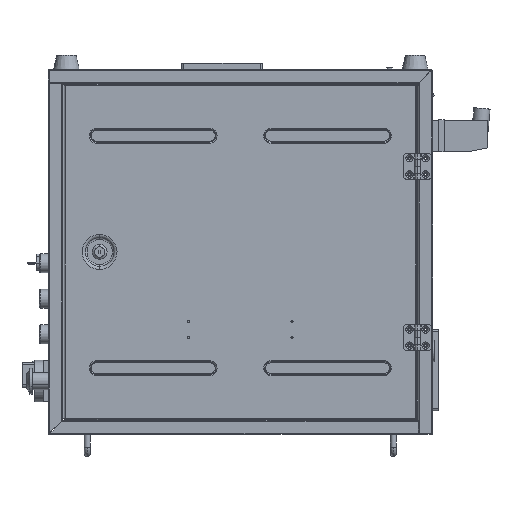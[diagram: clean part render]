
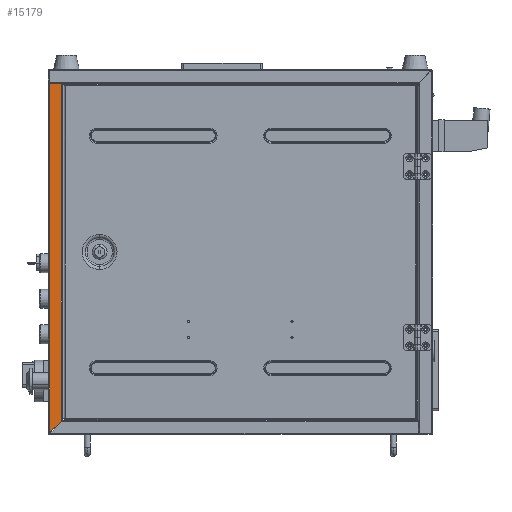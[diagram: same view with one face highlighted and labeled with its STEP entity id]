
A CAD part, front view. The second image highlights one B-rep face of the part: STEP entity #15179.
In plain terms, the highlighted planar face has unit normal (0, -1, 0).
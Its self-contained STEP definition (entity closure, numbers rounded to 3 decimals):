
#6622 = DIRECTION ( 'NONE',  ( -0.707, 0., -0.707 ) ) ;
#11247 = CARTESIAN_POINT ( 'NONE',  ( -277.1, -110., 542.1 ) ) ;
#15179 = ADVANCED_FACE ( 'NONE', ( #203117 ), #43346, .F. ) ;
#15956 = CARTESIAN_POINT ( 'NONE',  ( -295.4, -110., 542.1 ) ) ;
#18749 = LINE ( 'NONE', #40268, #207091 ) ;
#26466 = CARTESIAN_POINT ( 'NONE',  ( 0., -110., 0. ) ) ;
#26892 = VECTOR ( 'NONE', #102544, 1000. ) ;
#27732 = ORIENTED_EDGE ( 'NONE', *, *, #131249, .F. ) ;
#30736 = EDGE_CURVE ( 'NONE', #81757, #161222, #77273, .T. ) ;
#34556 = CARTESIAN_POINT ( 'NONE',  ( -295.9, -110., 542.1 ) ) ;
#40268 = CARTESIAN_POINT ( 'NONE',  ( 87.539, -110., 383.792 ) ) ;
#43346 = PLANE ( 'NONE',  #97009 ) ;
#54950 = EDGE_CURVE ( 'NONE', #210025, #81757, #115968, .T. ) ;
#60148 = DIRECTION ( 'NONE',  ( 0., 1., 0. ) ) ;
#64536 = LINE ( 'NONE', #15956, #153407 ) ;
#66333 = EDGE_LOOP ( 'NONE', ( #94331, #119776, #209909, #27732 ) ) ;
#77273 = LINE ( 'NONE', #11247, #200055 ) ;
#80226 = VERTEX_POINT ( 'NONE', #216757 ) ;
#81757 = VERTEX_POINT ( 'NONE', #209558 ) ;
#92596 = CARTESIAN_POINT ( 'NONE',  ( -277.1, -110., 19.154 ) ) ;
#94331 = ORIENTED_EDGE ( 'NONE', *, *, #214489, .F. ) ;
#97009 = AXIS2_PLACEMENT_3D ( 'NONE', #26466, #60148, #176992 ) ;
#102544 = DIRECTION ( 'NONE',  ( 1., 0., 0. ) ) ;
#115968 = LINE ( 'NONE', #34556, #26892 ) ;
#119776 = ORIENTED_EDGE ( 'NONE', *, *, #30736, .F. ) ;
#131249 = EDGE_CURVE ( 'NONE', #80226, #210025, #64536, .T. ) ;
#132257 = DIRECTION ( 'NONE',  ( 0., 0., 1. ) ) ;
#145013 = DIRECTION ( 'NONE',  ( 0., 0., -1. ) ) ;
#153407 = VECTOR ( 'NONE', #132257, 1000. ) ;
#161222 = VERTEX_POINT ( 'NONE', #92596 ) ;
#176992 = DIRECTION ( 'NONE',  ( -1., 0., 0. ) ) ;
#187563 = CARTESIAN_POINT ( 'NONE',  ( -295.4, -110., 542.1 ) ) ;
#200055 = VECTOR ( 'NONE', #145013, 1000. ) ;
#203117 = FACE_OUTER_BOUND ( 'NONE', #66333, .T. ) ;
#207091 = VECTOR ( 'NONE', #6622, 1000. ) ;
#209558 = CARTESIAN_POINT ( 'NONE',  ( -277.1, -110., 542.1 ) ) ;
#209909 = ORIENTED_EDGE ( 'NONE', *, *, #54950, .F. ) ;
#210025 = VERTEX_POINT ( 'NONE', #187563 ) ;
#214489 = EDGE_CURVE ( 'NONE', #161222, #80226, #18749, .T. ) ;
#216757 = CARTESIAN_POINT ( 'NONE',  ( -295.4, -110., 0.854 ) ) ;
